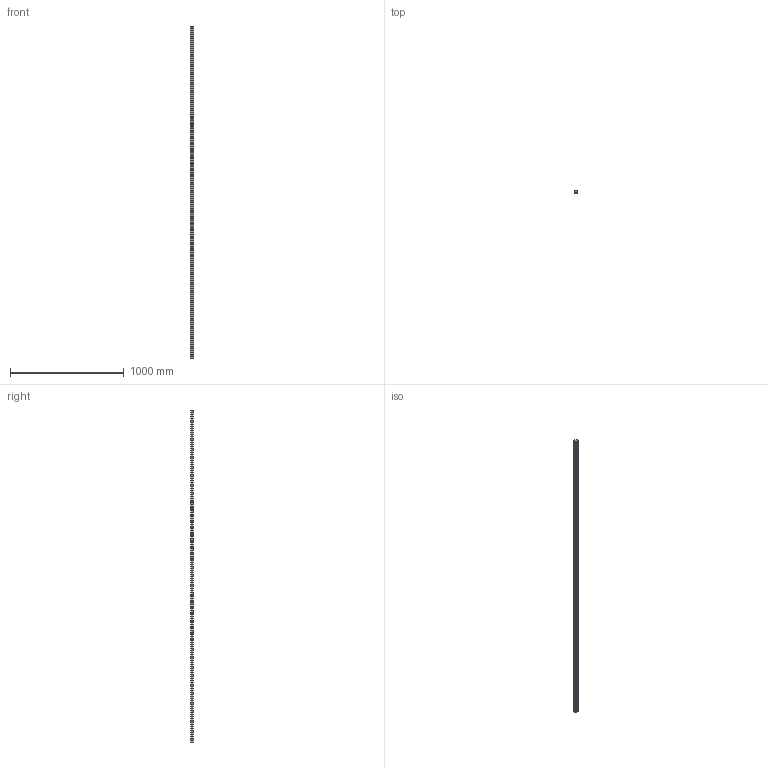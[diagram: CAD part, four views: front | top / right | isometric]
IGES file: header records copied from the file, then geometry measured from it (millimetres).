
Start section: SolidWorks IGES file using analytic representation for surfaces
Global section: file name: C:\Users\IanO\Desktop\Temp File\GENERAL\L1016_v2\L1016.RF35_v2\L1016.RF35_v2_20190612_IGES\L1016.RF35-2920.igs; native system: SolidWorks 2017; preprocessor: SolidWorks 2017; author: IanO; date: 190613.173159; units: millimetre
Bounding box: 34 x 26 x 2920 mm (x, y, z)
Surface area: 380411 mm2 (no closed solid volume)
Topology: 0 solids, 0 shells, 285 faces, 4608 edges, 4534 vertices
Faces by surface type: revolution 226, bspline 59
